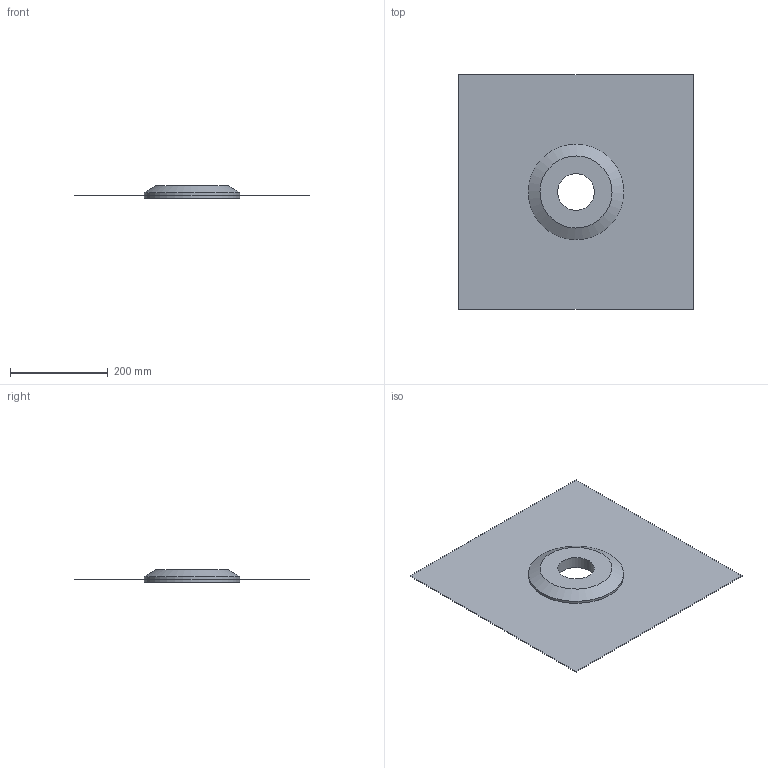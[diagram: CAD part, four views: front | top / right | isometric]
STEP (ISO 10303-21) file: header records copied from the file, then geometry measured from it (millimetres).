
FILE_DESCRIPTION(/* description */ (''),/* implementation_level */ '2;1');
FILE_NAME(/* name */ '366674.stp',/* time_stamp */ '2025-04-01T07:17:31+02:00',/* author */ ('JANAN'),/* organization */ (''),/* preprocessor_version */ 'ST-DEVELOPER v19.2',/* originating_system */ 'Autodesk Inventor 2023',/* authorisation */ '');
FILE_SCHEMA (('AUTOMOTIVE_DESIGN { 1 0 10303 214 3 1 1 }'));
Length unit declared in the file: millimetre
Products named in the file (1): tmp15EF.tmp
Bounding box: 480 x 480 x 25 mm (x, y, z)
Volume: 783953.6 mm3; surface area: 527227.7 mm2
Topology: 2 solids, 2 shells, 16 faces, 29 edges, 19 vertices
Faces by surface type: plane 10, cylinder 5, cone 1
Full cylindrical faces by diameter (mm): 75 x1, 140 x2, 195 x2
Entity records: 462 total; most frequent: DIRECTION 74, CARTESIAN_POINT 65, ORIENTED_EDGE 58, EDGE_CURVE 29, AXIS2_PLACEMENT_3D 28, EDGE_LOOP 22, VERTEX_POINT 19, LINE 18
